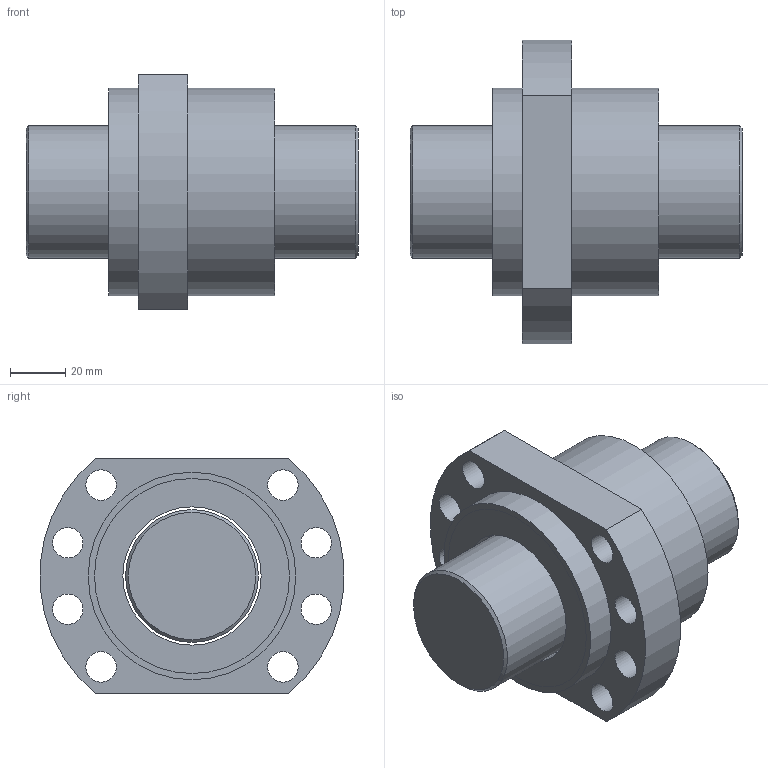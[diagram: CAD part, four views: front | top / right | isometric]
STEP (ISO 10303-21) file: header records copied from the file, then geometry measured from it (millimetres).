
FILE_DESCRIPTION(/* description */ (''),/* implementation_level */ '2;1');
FILE_NAME(/* name */ 'SFH5010-3.8.stp',/* time_stamp */ '2014-10-15T11:53:54+08:00',/* author */ (''),/* organization */ (''),/* preprocessor_version */ 'ST-DEVELOPER v11',/* originating_system */ 'SIEMENS UGS NX 6.0',/* authorisation */ '');
FILE_SCHEMA (('CONFIG_CONTROL_DESIGN'));
Length unit declared in the file: millimetre
Products named in the file (1): fannB1F9gm9h
Bounding box: 120 x 109.65 x 85 mm (x, y, z)
Volume: 420639.7 mm3; surface area: 78246 mm2
Topology: 4 solids, 4 shells, 52 faces, 96 edges, 64 vertices
Faces by surface type: cylinder 28, plane 22, cone 2
Full cylindrical faces by diameter (mm): 11 x8, 48 x1, 50 x3, 67 x4, 70.5 x4, 72 x4, 75 x2
Entity records: 1284 total; most frequent: DIRECTION 230, CARTESIAN_POINT 181, ORIENTED_EDGE 132, EDGE_LOOP 114, AXIS2_PLACEMENT_3D 111, FACE_BOUND 108, EDGE_CURVE 66, VERTEX_POINT 62
